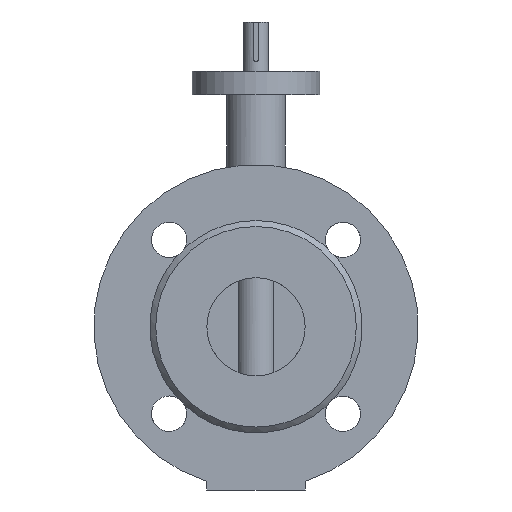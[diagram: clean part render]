
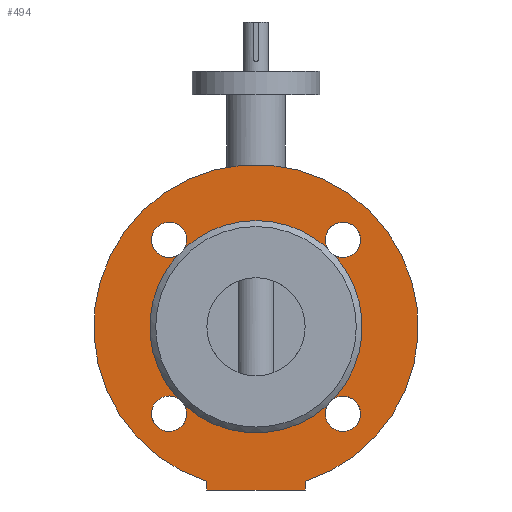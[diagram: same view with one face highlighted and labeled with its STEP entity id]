
A CAD part, front view. The second image highlights one B-rep face of the part: STEP entity #494.
In plain terms, the highlighted planar face has unit normal (0, -1, 0).
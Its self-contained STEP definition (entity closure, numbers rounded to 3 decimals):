
#494=ADVANCED_FACE('',(#1104,#1106),#1108,.T.);
#1104=FACE_BOUND('',#1105,.T.);
#1105=EDGE_LOOP('',(#1544,#1545,#1546,#1547));
#1106=FACE_BOUND('',#1107,.T.);
#1107=EDGE_LOOP('',(#1548,#1549,#1550,#1551,#1552,#1553,#1554,#1555,#1556,#1557,
#1558,#1559,#1560));
#1108=PLANE('',#1109);
#1109=AXIS2_PLACEMENT_3D('',#1110,#1111,#1112);
#1110=CARTESIAN_POINT('',(0.,-51.,0.));
#1111=DIRECTION('',(0.,-1.,0.));
#1112=DIRECTION('',(0.,0.,1.));
#1544=ORIENTED_EDGE('',*,*,#1771,.T.);
#1545=ORIENTED_EDGE('',*,*,#1769,.F.);
#1546=ORIENTED_EDGE('',*,*,#1767,.F.);
#1547=ORIENTED_EDGE('',*,*,#1766,.F.);
#1548=ORIENTED_EDGE('',*,*,#1774,.T.);
#1549=ORIENTED_EDGE('',*,*,#1776,.T.);
#1550=ORIENTED_EDGE('',*,*,#1811,.T.);
#1551=ORIENTED_EDGE('',*,*,#1779,.T.);
#1552=ORIENTED_EDGE('',*,*,#1778,.T.);
#1553=ORIENTED_EDGE('',*,*,#1812,.T.);
#1554=ORIENTED_EDGE('',*,*,#1782,.T.);
#1555=ORIENTED_EDGE('',*,*,#1781,.T.);
#1556=ORIENTED_EDGE('',*,*,#1813,.T.);
#1557=ORIENTED_EDGE('',*,*,#1783,.T.);
#1558=ORIENTED_EDGE('',*,*,#1785,.T.);
#1559=ORIENTED_EDGE('',*,*,#1814,.T.);
#1560=ORIENTED_EDGE('',*,*,#1815,.T.);
#1766=EDGE_CURVE('',#2025,#2023,#2027,.T.);
#1767=EDGE_CURVE('',#2023,#2028,#2029,.T.);
#1769=EDGE_CURVE('',#2028,#2031,#2032,.T.);
#1771=EDGE_CURVE('',#2025,#2031,#2034,.T.);
#1774=EDGE_CURVE('',#2037,#2038,#2039,.F.);
#1776=EDGE_CURVE('',#2038,#2040,#2042,.F.);
#1778=EDGE_CURVE('',#2046,#2043,#2047,.F.);
#1779=EDGE_CURVE('',#2044,#2046,#2048,.F.);
#1781=EDGE_CURVE('',#2052,#2049,#2053,.F.);
#1782=EDGE_CURVE('',#2050,#2052,#2054,.F.);
#1783=EDGE_CURVE('',#2055,#2056,#2057,.F.);
#1785=EDGE_CURVE('',#2056,#2058,#2060,.F.);
#1811=EDGE_CURVE('',#2040,#2044,#2107,.T.);
#1812=EDGE_CURVE('',#2043,#2050,#2108,.T.);
#1813=EDGE_CURVE('',#2049,#2055,#2109,.T.);
#1814=EDGE_CURVE('',#2058,#2110,#2111,.T.);
#1815=EDGE_CURVE('',#2110,#2037,#2112,.T.);
#2023=VERTEX_POINT('',#2876);
#2025=VERTEX_POINT('',#2880);
#2027=CIRCLE('',#2884,82.5);
#2028=VERTEX_POINT('',#2888);
#2029=LINE('',#2889,#2890);
#2031=VERTEX_POINT('',#2895);
#2032=LINE('',#2896,#2897);
#2034=LINE('',#2902,#2903);
#2037=VERTEX_POINT('',#2911);
#2038=VERTEX_POINT('',#2912);
#2039=CIRCLE('',#2913,9.);
#2040=VERTEX_POINT('',#2917);
#2042=CIRCLE('',#2973,9.);
#2043=VERTEX_POINT('',#2977);
#2044=VERTEX_POINT('',#2978);
#2046=VERTEX_POINT('',#3034);
#2047=CIRCLE('',#3035,9.);
#2048=CIRCLE('',#3039,9.);
#2049=VERTEX_POINT('',#3043);
#2050=VERTEX_POINT('',#3044);
#2052=VERTEX_POINT('',#3100);
#2053=CIRCLE('',#3101,9.);
#2054=CIRCLE('',#3105,9.);
#2055=VERTEX_POINT('',#3109);
#2056=VERTEX_POINT('',#3110);
#2057=CIRCLE('',#3111,9.);
#2058=VERTEX_POINT('',#3115);
#2060=CIRCLE('',#3171,9.);
#2107=CIRCLE('',#3461,54.);
#2108=CIRCLE('',#3465,54.);
#2109=CIRCLE('',#3469,54.);
#2110=VERTEX_POINT('',#3473);
#2111=CIRCLE('',#3474,54.);
#2112=CIRCLE('',#3478,54.);
#2876=CARTESIAN_POINT('',(25.,-51.,-78.621));
#2880=CARTESIAN_POINT('',(-25.,-51.,-78.621));
#2884=AXIS2_PLACEMENT_3D('',#2885,#2886,#2887);
#2885=CARTESIAN_POINT('',(0.,-51.,0.));
#2886=DIRECTION('',(0.,1.,0.));
#2887=DIRECTION('',(-0.303,0.,-0.953));
#2888=CARTESIAN_POINT('',(25.,-51.,-83.));
#2889=CARTESIAN_POINT('',(25.,-51.,-78.621));
#2890=VECTOR('',#2891,1.);
#2891=DIRECTION('',(0.,0.,-1.));
#2895=CARTESIAN_POINT('',(-25.,-51.,-83.));
#2896=CARTESIAN_POINT('',(25.,-51.,-83.));
#2897=VECTOR('',#2898,1.);
#2898=DIRECTION('',(-1.,0.,0.));
#2902=CARTESIAN_POINT('',(-25.,-51.,-78.621));
#2903=VECTOR('',#2904,1.);
#2904=DIRECTION('',(0.,0.,-1.));
#2911=CARTESIAN_POINT('',(36.191,-51.,40.078));
#2912=CARTESIAN_POINT('',(44.194,-51.,35.194));
#2913=AXIS2_PLACEMENT_3D('',#2914,#2915,#2916);
#2914=CARTESIAN_POINT('',(44.194,-51.,44.194));
#2915=DIRECTION('',(0.,-1.,0.));
#2916=DIRECTION('',(0.,0.,-1.));
#2917=CARTESIAN_POINT('',(40.078,-51.,36.191));
#2973=AXIS2_PLACEMENT_3D('',#2974,#2975,#2976);
#2974=CARTESIAN_POINT('',(44.194,-51.,44.194));
#2975=DIRECTION('',(0.,-1.,0.));
#2976=DIRECTION('',(-0.457,0.,-0.889));
#2977=CARTESIAN_POINT('',(36.191,-51.,-40.078));
#2978=CARTESIAN_POINT('',(40.078,-51.,-36.191));
#3034=CARTESIAN_POINT('',(35.194,-51.,-44.194));
#3035=AXIS2_PLACEMENT_3D('',#3036,#3037,#3038);
#3036=CARTESIAN_POINT('',(44.194,-51.,-44.194));
#3037=DIRECTION('',(0.,-1.,0.));
#3038=DIRECTION('',(-0.889,0.,0.457));
#3039=AXIS2_PLACEMENT_3D('',#3040,#3041,#3042);
#3040=CARTESIAN_POINT('',(44.194,-51.,-44.194));
#3041=DIRECTION('',(0.,-1.,0.));
#3042=DIRECTION('',(-1.,0.,0.));
#3043=CARTESIAN_POINT('',(-40.078,-51.,-36.191));
#3044=CARTESIAN_POINT('',(-36.191,-51.,-40.078));
#3100=CARTESIAN_POINT('',(-44.194,-51.,-35.194));
#3101=AXIS2_PLACEMENT_3D('',#3102,#3103,#3104);
#3102=CARTESIAN_POINT('',(-44.194,-51.,-44.194));
#3103=DIRECTION('',(0.,-1.,0.));
#3104=DIRECTION('',(0.457,0.,0.889));
#3105=AXIS2_PLACEMENT_3D('',#3106,#3107,#3108);
#3106=CARTESIAN_POINT('',(-44.194,-51.,-44.194));
#3107=DIRECTION('',(0.,-1.,0.));
#3108=DIRECTION('',(0.,0.,1.));
#3109=CARTESIAN_POINT('',(-40.078,-51.,36.191));
#3110=CARTESIAN_POINT('',(-35.194,-51.,44.194));
#3111=AXIS2_PLACEMENT_3D('',#3112,#3113,#3114);
#3112=CARTESIAN_POINT('',(-44.194,-51.,44.194));
#3113=DIRECTION('',(0.,-1.,0.));
#3114=DIRECTION('',(1.,0.,0.));
#3115=CARTESIAN_POINT('',(-36.191,-51.,40.078));
#3171=AXIS2_PLACEMENT_3D('',#3172,#3173,#3174);
#3172=CARTESIAN_POINT('',(-44.194,-51.,44.194));
#3173=DIRECTION('',(0.,-1.,0.));
#3174=DIRECTION('',(0.889,0.,-0.457));
#3461=AXIS2_PLACEMENT_3D('',#3462,#3463,#3464);
#3462=CARTESIAN_POINT('',(0.,-51.,0.));
#3463=DIRECTION('',(0.,1.,0.));
#3464=DIRECTION('',(0.742,0.,0.67));
#3465=AXIS2_PLACEMENT_3D('',#3466,#3467,#3468);
#3466=CARTESIAN_POINT('',(0.,-51.,0.));
#3467=DIRECTION('',(0.,1.,0.));
#3468=DIRECTION('',(0.67,0.,-0.742));
#3469=AXIS2_PLACEMENT_3D('',#3470,#3471,#3472);
#3470=CARTESIAN_POINT('',(0.,-51.,0.));
#3471=DIRECTION('',(0.,1.,0.));
#3472=DIRECTION('',(-0.742,0.,-0.67));
#3473=CARTESIAN_POINT('',(0.,-51.,54.));
#3474=AXIS2_PLACEMENT_3D('',#3475,#3476,#3477);
#3475=CARTESIAN_POINT('',(0.,-51.,0.));
#3476=DIRECTION('',(0.,1.,0.));
#3477=DIRECTION('',(-0.67,0.,0.742));
#3478=AXIS2_PLACEMENT_3D('',#3479,#3480,#3481);
#3479=CARTESIAN_POINT('',(0.,-51.,0.));
#3480=DIRECTION('',(0.,1.,0.));
#3481=DIRECTION('',(0.,0.,1.));
